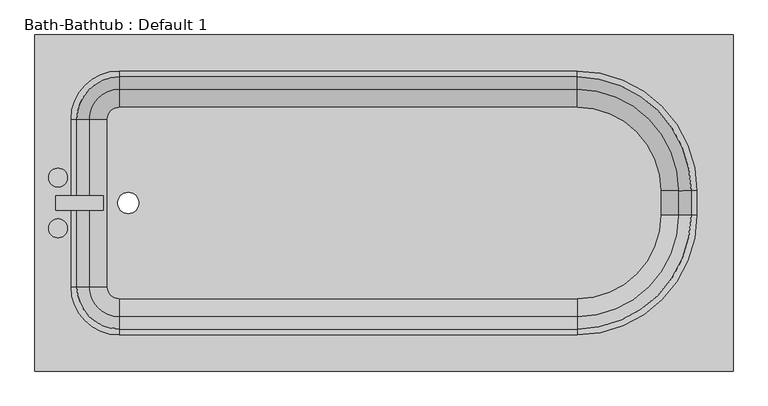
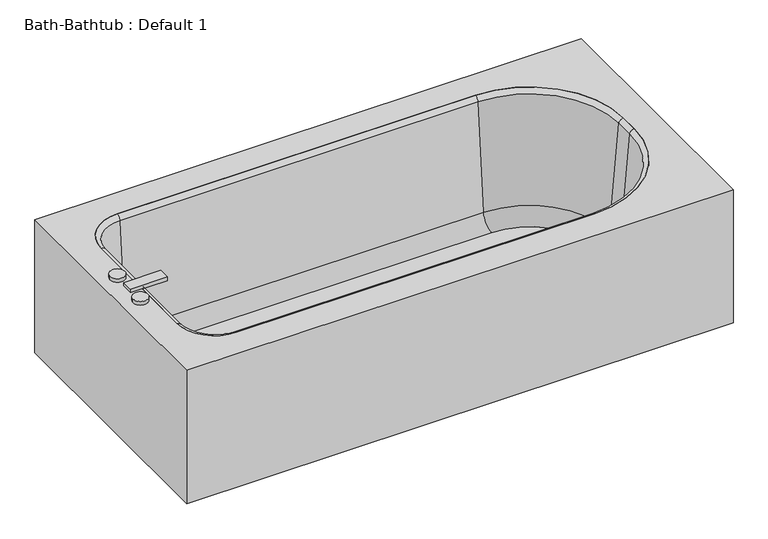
"""IFC4 building model written with IfcOpenShell, lengths in millimetres: flow terminal geometry, Bath-Bathtub : Default 1."""

from ifc_helpers import new_model, si_unit, point, frame, frame_2d, origin, place, context, project, spatial, polyline, circle_curve, ellipse_curve, trimmed, segment, composite_curve, outline, extrude, source, transform, mapped, element, save
from ifc_brep_helpers import plane_surface, cylinder_surface, revolved_surface, advanced_brep


def bath_bathtub_default_1_2fc18997(model_context):
    return source(origin(), model_context, "Body", "SolidModel", [
        advanced_brep(
        [(363.1306637, 785.7105634, 380.0), (-1110.6029687, 785.7105634, 380.0), (-1110.6029687, 76.2, 380.0), (363.1306637, 76.2, 380.0), (-932.8029687, 709.5105634, 380.0), (33.775382, 709.5105634, 380.0), (286.9306637, 456.3552817, 380.0), (286.9306637, 405.5552817, 380.0), (33.775382, 152.4, 380.0), (-932.8029687, 152.4, 380.0), (-1034.4029687, 254.0, 380.0), (-1034.4029687, 607.9105634, 380.0), (344.0806637, 766.6605634, 360.95), (344.0806637, 95.25, 360.95), (-1091.5529687, 95.25, 360.95), (-1091.5529687, 766.6605634, 360.95), (-932.8029687, 709.5105634, 360.95), (-1034.4029687, 607.9105634, 360.95), (-1034.4029687, 254.0, 360.95), (-932.8029687, 152.4, 360.95), (33.775382, 152.4, 360.95), (286.9306637, 405.5552817, 360.95), (286.9306637, 456.3552817, 360.95), (33.775382, 709.5105634, 360.95), (363.1306637, 785.7105634, 0.0), (-1110.6029687, 785.7105634, 0.0), (-1110.6029687, 76.2, 0.0), (363.1306637, 76.2, 0.0), (344.0806637, 766.6605634, 0.0), (-1091.5529687, 766.6605634, 0.0), (-1091.5529687, 95.25, 0.0), (344.0806637, 95.25, 0.0)],
        [
            (0, 1),
            (1, 2),
            (2, 3),
            (3, 0),
            (4, 5),
            (5, 6, circle_curve(frame((33.775382, 456.3552817, 380.0), z_axis=(0.0, 0.0, -1.0), x_axis=(0.0, 1.0, 0.0)), 253.1552817)),
            (6, 7),
            (7, 8, circle_curve(frame((33.775382, 405.5552817, 380.0), z_axis=(0.0, 0.0, -1.0), x_axis=(0.0, 1.0, 0.0)), 253.1552817)),
            (8, 9),
            (9, 10, circle_curve(frame((-932.8029687, 254.0, 380.0), z_axis=(0.0, 0.0, -1.0), x_axis=(0.0, 1.0, 0.0)), 101.6)),
            (10, 11),
            (11, 4, circle_curve(frame((-932.8029687, 607.9105634, 380.0), z_axis=(0.0, 0.0, -1.0), x_axis=(0.0, 1.0, 0.0)), 101.6)),
            (12, 13),
            (13, 14),
            (14, 15),
            (15, 12),
            (16, 17, circle_curve(frame((-932.8029687, 607.9105634, 360.95), z_axis=(0.0, 0.0, 1.0), x_axis=(0.0, 1.0, 0.0)), 101.6)),
            (17, 18),
            (18, 19, circle_curve(frame((-932.8029687, 254.0, 360.95), z_axis=(0.0, 0.0, 1.0), x_axis=(0.0, 1.0, 0.0)), 101.6)),
            (19, 20),
            (20, 21, circle_curve(frame((33.775382, 405.5552817, 360.95), z_axis=(0.0, 0.0, 1.0), x_axis=(0.0, 1.0, 0.0)), 253.1552817)),
            (21, 22),
            (22, 23, circle_curve(frame((33.775382, 456.3552817, 360.95), z_axis=(0.0, 0.0, 1.0), x_axis=(0.0, 1.0, 0.0)), 253.1552817)),
            (23, 16),
            (0, 24),
            (24, 25),
            (25, 1),
            (25, 26),
            (26, 2),
            (26, 27),
            (27, 3),
            (27, 24),
            (4, 16),
            (23, 5),
            (22, 6),
            (21, 7),
            (20, 8),
            (19, 9),
            (18, 10),
            (17, 11),
            (28, 29),
            (29, 30),
            (30, 31),
            (31, 28),
            (31, 13),
            (12, 28),
            (30, 14),
            (29, 15),
        ],
        [
            plane_surface(frame((-1110.6029687, 785.7105634, 380.0), z_axis=(0.0, 0.0, 1.0), x_axis=(-1.0, 0.0, 0.0))),
            plane_surface(frame((-1110.6029687, 785.7105634, 360.95), z_axis=(0.0, 0.0, -1.0), x_axis=(1.0, 0.0, 0.0))),
            plane_surface(frame((363.1306637, 785.7105634, 380.0), z_axis=(0.0, 1.0, 0.0), x_axis=(0.0, 0.0, -1.0))),
            plane_surface(frame((-1110.6029687, 785.7105634, 380.0), z_axis=(-1.0, 0.0, 0.0), x_axis=(0.0, 0.0, -1.0))),
            plane_surface(frame((-1110.6029687, 76.2, 380.0), z_axis=(0.0, -1.0, 0.0), x_axis=(0.0, 0.0, -1.0))),
            plane_surface(frame((363.1306637, 76.2, 380.0), z_axis=(1.0, 0.0, 0.0), x_axis=(0.0, 0.0, -1.0))),
            plane_surface(frame((-932.8029687, 709.5105634, 380.0), z_axis=(0.0, -1.0, 0.0), x_axis=(0.0, 0.0, -1.0))),
            revolved_surface(polyline([(33.775382, 709.5105633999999, 360.95), (33.775382, 709.5105633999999, 380.0)]), (33.775382, 456.3552817, 380.0), (0.0, 0.0, -1.0)),
            plane_surface(frame((286.9306637, 456.3552817, 380.0), z_axis=(-1.0, 0.0, 0.0), x_axis=(0.0, 0.0, -1.0))),
            revolved_surface(polyline([(33.775382, 658.7105634, 360.95), (33.775382, 658.7105634, 380.0)]), (33.775382, 405.5552817, 380.0), (0.0, 0.0, -1.0)),
            plane_surface(frame((33.775382, 152.4, 380.0), z_axis=(0.0, 1.0, 0.0), x_axis=(0.0, 0.0, -1.0))),
            revolved_surface(polyline([(-932.8029687, 355.6, 360.95), (-932.8029687, 355.6, 380.0)]), (-932.8029687, 254.0, 380.0), (0.0, 0.0, -1.0)),
            plane_surface(frame((-1034.4029687, 254.0, 380.0), z_axis=(1.0, 0.0, 0.0), x_axis=(0.0, 0.0, -1.0))),
            revolved_surface(polyline([(-932.8029687, 709.5105634, 360.95), (-932.8029687, 709.5105634, 380.0)]), (-932.8029687, 607.9105634, 380.0), (0.0, 0.0, -1.0)),
            plane_surface(frame((-1110.6029687, 785.7105634, 0.0), z_axis=(0.0, 0.0, -1.0), x_axis=(1.0, 0.0, 0.0))),
            plane_surface(frame((344.0806637, 766.6605634, 360.95), z_axis=(-1.0, 0.0, 0.0), x_axis=(0.0, 0.0, -1.0))),
            plane_surface(frame((344.0806637, 95.25, 360.95), z_axis=(0.0, 1.0, 0.0), x_axis=(0.0, 0.0, -1.0))),
            plane_surface(frame((-1091.5529687, 95.25, 360.95), z_axis=(1.0, 0.0, 0.0), x_axis=(0.0, 0.0, -1.0))),
            plane_surface(frame((-1091.5529687, 766.6605634, 360.95), z_axis=(0.0, -1.0, 0.0), x_axis=(0.0, 0.0, -1.0))),
        ],
        [
            (0, [[1, 2, 3, 4], [5, 6, 7, 8, 9, 10, 11, 12]]),
            (1, [[13, 14, 15, 16], [17, 18, 19, 20, 21, 22, 23, 24]]),
            (2, [[-1, 25, 26, 27]]),
            (3, [[-2, -27, 28, 29]]),
            (4, [[-3, -29, 30, 31]]),
            (5, [[-25, -4, -31, 32]]),
            (6, [[-5, 33, -24, 34]]),
            (7, [[-6, -34, -23, 35]]),
            (8, [[-7, -35, -22, 36]]),
            (9, [[-8, -36, -21, 37]]),
            (10, [[-9, -37, -20, 38]]),
            (11, [[-10, -38, -19, 39]]),
            (12, [[-11, -39, -18, 40]]),
            (13, [[-12, -40, -17, -33]]),
            (14, [[-32, -30, -28, -26], [41, 42, 43, 44]]),
            (15, [[-44, 45, -13, 46]]),
            (16, [[-43, 47, -14, -45]]),
            (17, [[-42, 48, -15, -47]]),
            (18, [[-41, -46, -16, -48]]),
        ],
    ),
        extrude(outline(composite_curve([segment(trimmed(circle_curve(frame_2d((33.775382, 456.3552817)), 176.5517558), [point((33.775382, 632.9070376))], [point((210.3271379, 456.3552817))], False, "CARTESIAN"), True, "CONTINUOUS"), segment(polyline([(210.3271379, 456.3552817), (210.3271379, 405.5552817)]), True, "CONTINUOUS"), segment(trimmed(circle_curve(frame_2d((33.775382, 405.5552817)), 176.5517558), [point((210.3271379, 405.5552817))], [point((33.775382, 229.0035259))], False, "CARTESIAN"), True, "CONTINUOUS"), segment(polyline([(33.775382, 229.0035259), (-932.8029687, 229.0035259)]), True, "CONTINUOUS"), segment(trimmed(circle_curve(frame_2d((-932.8029687, 254.0)), 24.9964741), [point((-932.8029687, 229.0035259))], [point((-957.7994428, 254.0))], False, "CARTESIAN"), True, "CONTINUOUS"), segment(polyline([(-957.7994428, 254.0), (-957.7994428, 607.9105634)]), True, "CONTINUOUS"), segment(trimmed(circle_curve(frame_2d((-932.8029687, 607.9105634)), 24.9964741), [point((-957.7994428, 607.9105634))], [point((-932.8029687, 632.9070376))], False, "CARTESIAN"), True, "CONTINUOUS"), segment(polyline([(-932.8029687, 632.9070376), (33.775382, 632.9070376)]), True, "CONTINUOUS")], self_intersect=False), holes=[composite_curve([segment(trimmed(circle_curve(frame_2d((-913.5971625, 430.9552817)), 22.225), [point((-913.5971625, 453.1802817))], [point((-913.5971625, 408.7302817))], True, "CARTESIAN"), True, "CONTINUOUS"), segment(trimmed(circle_curve(frame_2d((-913.5971625, 430.9552817)), 22.225), [point((-913.5971625, 408.7302817))], [point((-913.5971625, 453.1802817))], True, "CARTESIAN"), True, "CONTINUOUS")], self_intersect=False)]), frame((0.0, 0.0, 15.863573), z_axis=(0.0, 0.0, 1.0), x_axis=(1.0, 0.0, 0.0)), (0.0, 0.0, 1.0), 19.05),
        advanced_brep(
        [(-995.7544608, 607.9105634, 69.6929392), (-932.8029687, 670.8620555, 69.6929392), (-932.8029687, 697.032567, 368.8232535), (-1021.9249722, 607.9105634, 368.8232535), (-957.7994428, 607.9105634, 34.913573), (-932.8029687, 632.9070376, 34.913573), (-957.7994428, 607.9105634, 15.863573), (-932.8029687, 632.9070376, 15.863573), (-1034.4029687, 607.9105634, 15.863573), (-932.8029687, 709.5105634, 15.863573), (-1034.4029687, 607.9105634, 380.0), (-932.8029687, 709.5105634, 380.0), (-1021.9249722, 254.0, 368.8232535), (-995.7544608, 254.0, 69.6929392), (-957.7994428, 254.0, 34.913573), (-957.7994428, 254.0, 15.863573), (-1034.4029687, 254.0, 15.863573), (-1034.4029687, 254.0, 380.0), (-932.8029687, 191.0485079, 69.6929392), (-932.8029687, 164.8779965, 368.8232535), (-932.8029687, 229.0035259, 34.913573), (-932.8029687, 229.0035259, 15.863573), (-932.8029687, 152.4, 15.863573), (-932.8029687, 152.4, 380.0), (33.775382, 164.8779965, 368.8232535), (33.775382, 191.0485079, 69.6929392), (33.775382, 229.0035259, 34.913573), (33.775382, 229.0035259, 15.863573), (33.775382, 152.4, 15.863573), (33.775382, 152.4, 380.0), (248.2821559, 405.5552817, 69.6929392), (274.4526673, 405.5552817, 368.8232535), (210.3271379, 405.5552817, 34.913573), (210.3271379, 405.5552817, 15.863573), (286.9306637, 405.5552817, 15.863573), (286.9306637, 405.5552817, 380.0), (274.4526673, 456.3552817, 368.8232535), (248.2821559, 456.3552817, 69.6929392), (210.3271379, 456.3552817, 34.913573), (210.3271379, 456.3552817, 15.863573), (286.9306637, 456.3552817, 15.863573), (286.9306637, 456.3552817, 380.0), (33.775382, 670.8620555, 69.6929392), (33.775382, 697.032567, 368.8232535), (33.775382, 632.9070376, 34.913573), (33.775382, 632.9070376, 15.863573), (33.775382, 709.5105634, 15.863573), (33.775382, 709.5105634, 380.0)],
        [
            (0, 1, circle_curve(frame((-932.8029687, 607.9105634, 69.6929392), z_axis=(0.0, 0.0, -1.0), x_axis=(0.0, 1.0, 0.0)), 62.9514921)),
            (1, 2),
            (2, 3, circle_curve(frame((-932.8029687, 607.9105634, 368.8232535), z_axis=(0.0, 0.0, 1.0), x_axis=(0.0, 1.0, 0.0)), 89.1220035)),
            (3, 0),
            (4, 5, circle_curve(frame((-932.8029687, 607.9105634, 34.913573), z_axis=(0.0, 0.0, -1.0), x_axis=(0.0, 1.0, 0.0)), 24.9964741)),
            (5, 1, circle_curve(frame((-932.8029687, 632.9070376, 73.013573), z_axis=(1.0, 0.0, 0.0), x_axis=(0.0, -1.0, 0.0)), 38.1)),
            (0, 4, circle_curve(frame((-957.7994428, 607.9105634, 73.013573), z_axis=(0.0, -1.0, 0.0), x_axis=(1.0, 0.0, 0.0)), 38.1)),
            (6, 7, circle_curve(frame((-932.8029687, 607.9105634, 15.863573), z_axis=(0.0, 0.0, -1.0), x_axis=(0.0, 1.0, 0.0)), 24.9964741)),
            (7, 5),
            (4, 6),
            (8, 9, circle_curve(frame((-932.8029687, 607.9105634, 15.863573), z_axis=(0.0, 0.0, -1.0), x_axis=(0.0, 1.0, 0.0)), 101.6)),
            (9, 7),
            (6, 8),
            (10, 11, circle_curve(frame((-932.8029687, 607.9105634, 380.0), z_axis=(0.0, 0.0, -1.0), x_axis=(0.0, 1.0, 0.0)), 101.6)),
            (11, 9),
            (8, 10),
            (2, 11, circle_curve(frame((-932.8029687, 709.5105634, 367.4462547), z_axis=(-1.0, 0.0, 0.0), x_axis=(0.0, -1.0, 0.0)), 12.5537453)),
            (10, 3, circle_curve(frame((-1034.4029687, 607.9105634, 367.4462547), z_axis=(0.0, 1.0, 0.0), x_axis=(1.0, 0.0, 0.0)), 12.5537453)),
            (3, 12),
            (12, 13),
            (13, 0),
            (13, 14, circle_curve(frame((-957.7994428, 254.0, 73.013573), z_axis=(0.0, -1.0, 0.0), x_axis=(1.0, 0.0, 0.0)), 38.1)),
            (14, 4),
            (14, 15),
            (15, 6),
            (15, 16),
            (16, 8),
            (16, 17),
            (17, 10),
            (17, 12, circle_curve(frame((-1034.4029687, 254.0, 367.4462547), z_axis=(0.0, 1.0, 0.0), x_axis=(1.0, 0.0, 0.0)), 12.5537453)),
            (18, 13, circle_curve(frame((-932.8029687, 254.0, 69.6929392), z_axis=(0.0, 0.0, -1.0), x_axis=(-1.0, 0.0, 0.0)), 62.9514921)),
            (12, 19, circle_curve(frame((-932.8029687, 254.0, 368.8232535), z_axis=(0.0, 0.0, 1.0), x_axis=(-1.0, 0.0, 0.0)), 89.1220035)),
            (19, 18),
            (20, 14, circle_curve(frame((-932.8029687, 254.0, 34.913573), z_axis=(0.0, 0.0, -1.0), x_axis=(-1.0, 0.0, 0.0)), 24.9964741)),
            (18, 20, circle_curve(frame((-932.8029687, 229.0035259, 73.013573), z_axis=(1.0, 0.0, 0.0), x_axis=(0.0, 1.0, 0.0)), 38.1)),
            (21, 15, circle_curve(frame((-932.8029687, 254.0, 15.863573), z_axis=(0.0, 0.0, -1.0), x_axis=(-1.0, 0.0, 0.0)), 24.9964741)),
            (20, 21),
            (22, 16, circle_curve(frame((-932.8029687, 254.0, 15.863573), z_axis=(0.0, 0.0, -1.0), x_axis=(-1.0, 0.0, 0.0)), 101.6)),
            (21, 22),
            (23, 17, circle_curve(frame((-932.8029687, 254.0, 380.0), z_axis=(0.0, 0.0, -1.0), x_axis=(-1.0, 0.0, 0.0)), 101.6)),
            (22, 23),
            (23, 19, circle_curve(frame((-932.8029687, 152.4, 367.4462547), z_axis=(-1.0, 0.0, 0.0), x_axis=(0.0, 1.0, 0.0)), 12.5537453)),
            (19, 24),
            (24, 25),
            (25, 18),
            (25, 26, circle_curve(frame((33.775382, 229.0035259, 73.013573), z_axis=(1.0, 0.0, 0.0), x_axis=(0.0, 1.0, 0.0)), 38.1)),
            (26, 20),
            (26, 27),
            (27, 21),
            (27, 28),
            (28, 22),
            (28, 29),
            (29, 23),
            (29, 24, circle_curve(frame((33.775382, 152.4, 367.4462547), z_axis=(-1.0, 0.0, 0.0), x_axis=(0.0, 1.0, 0.0)), 12.5537453)),
            (30, 25, circle_curve(frame((33.775382, 405.5552817, 69.6929392), z_axis=(0.0, 0.0, -1.0), x_axis=(0.0, -1.0, 0.0)), 214.5067738)),
            (24, 31, circle_curve(frame((33.775382, 405.5552817, 368.8232535), z_axis=(0.0, 0.0, 1.0), x_axis=(0.0, -1.0, 0.0)), 240.6772852)),
            (31, 30),
            (32, 26, circle_curve(frame((33.775382, 405.5552817, 34.913573), z_axis=(0.0, 0.0, -1.0), x_axis=(0.0, -1.0, 0.0)), 176.5517558)),
            (30, 32, circle_curve(frame((210.3271379, 405.5552817, 73.013573), z_axis=(0.0, 1.0, 0.0), x_axis=(-1.0, 0.0, 0.0)), 38.1)),
            (33, 27, circle_curve(frame((33.775382, 405.5552817, 15.863573), z_axis=(0.0, 0.0, -1.0), x_axis=(0.0, -1.0, 0.0)), 176.5517558)),
            (32, 33),
            (34, 28, circle_curve(frame((33.775382, 405.5552817, 15.863573), z_axis=(0.0, 0.0, -1.0), x_axis=(0.0, -1.0, 0.0)), 253.1552817)),
            (33, 34),
            (35, 29, circle_curve(frame((33.775382, 405.5552817, 380.0), z_axis=(0.0, 0.0, -1.0), x_axis=(0.0, -1.0, 0.0)), 253.1552817)),
            (34, 35),
            (35, 31, circle_curve(frame((286.9306637, 405.5552817, 367.4462547), z_axis=(0.0, -1.0, 0.0), x_axis=(-1.0, 0.0, 0.0)), 12.5537453)),
            (31, 36),
            (36, 37),
            (37, 30),
            (37, 38, circle_curve(frame((210.3271379, 456.3552817, 73.013573), z_axis=(0.0, 1.0, 0.0), x_axis=(-1.0, 0.0, 0.0)), 38.1)),
            (38, 32),
            (38, 39),
            (39, 33),
            (39, 40),
            (40, 34),
            (40, 41),
            (41, 35),
            (41, 36, circle_curve(frame((286.9306637, 456.3552817, 367.4462547), z_axis=(0.0, -1.0, 0.0), x_axis=(-1.0, 0.0, 0.0)), 12.5537453)),
            (42, 37, circle_curve(frame((33.775382, 456.3552817, 69.6929392), z_axis=(0.0, 0.0, -1.0), x_axis=(1.0, 0.0, 0.0)), 214.5067738)),
            (36, 43, circle_curve(frame((33.775382, 456.3552817, 368.8232535), z_axis=(0.0, 0.0, 1.0), x_axis=(1.0, 0.0, 0.0)), 240.6772852)),
            (43, 42),
            (44, 38, circle_curve(frame((33.775382, 456.3552817, 34.913573), z_axis=(0.0, 0.0, -1.0), x_axis=(1.0, 0.0, 0.0)), 176.5517558)),
            (42, 44, circle_curve(frame((33.775382, 632.9070376, 73.013573), z_axis=(-1.0, 0.0, 0.0), x_axis=(0.0, -1.0, 0.0)), 38.1)),
            (45, 39, circle_curve(frame((33.775382, 456.3552817, 15.863573), z_axis=(0.0, 0.0, -1.0), x_axis=(1.0, 0.0, 0.0)), 176.5517558)),
            (44, 45),
            (46, 40, circle_curve(frame((33.775382, 456.3552817, 15.863573), z_axis=(0.0, 0.0, -1.0), x_axis=(1.0, 0.0, 0.0)), 253.1552817)),
            (45, 46),
            (47, 41, circle_curve(frame((33.775382, 456.3552817, 380.0), z_axis=(0.0, 0.0, -1.0), x_axis=(1.0, 0.0, 0.0)), 253.1552817)),
            (46, 47),
            (47, 43, circle_curve(frame((33.775382, 709.5105634, 367.4462547), z_axis=(1.0, 0.0, 0.0), x_axis=(0.0, -1.0, 0.0)), 12.5537453)),
            (43, 2),
            (1, 42),
            (5, 44),
            (7, 45),
            (9, 46),
            (11, 47),
        ],
        [
            revolved_surface(polyline([(-932.8029687, 697.032567, 368.8232535), (-932.8029687, 670.8620555, 69.6929392)]), (-932.8029687, 607.9105634, 380.0), (0.0, 0.0, 1.0)),
            revolved_surface(trimmed(ellipse_curve(frame((-932.8029687, 632.9070376, 73.013573), z_axis=(-1.0, 0.0, 0.0), x_axis=(0.0, -1.0, 0.0)), 38.1, 38.1), [point((-932.8029687, 670.8620555, 69.6929392))], [point((-932.8029687, 632.9070376, 34.913573))], True, "CARTESIAN"), (-932.8029687, 607.9105634, 380.0), (0.0, 0.0, 1.0)),
            revolved_surface(polyline([(-932.8029687, 632.9070375, 34.913572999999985), (-932.8029687, 632.9070375, 15.863572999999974)]), (-932.8029687, 607.9105634, 380.0), (0.0, 0.0, 1.0)),
            plane_surface(frame((-932.8029687, 607.9105634, 15.863573), z_axis=(0.0, 0.0, -1.0), x_axis=(0.0, 1.0, 0.0))),
            cylinder_surface(frame((-932.8029687, 607.9105634, 380.0), z_axis=(0.0, 0.0, 1.0), x_axis=(0.0, 1.0, 0.0)), 101.6),
            revolved_surface(trimmed(ellipse_curve(frame((-932.8029687, 709.5105634, 367.4462547), z_axis=(1.0, 0.0, 0.0), x_axis=(0.0, -1.0, 0.0)), 12.5537453, 12.5537453), [point((-932.8029687, 709.5105634, 380.0))], [point((-932.8029687, 697.032567, 368.8232535))], True, "CARTESIAN"), (-932.8029687, 607.9105634, 380.0), (0.0, 0.0, 1.0)),
            plane_surface(frame((-1021.9249722, 607.9105634, 368.8232535), z_axis=(0.9961946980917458, 0.0, 0.08715574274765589), x_axis=(0.0, -1.0, 0.0))),
            revolved_surface(polyline([(-919.6994427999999, 254.0, 73.013573), (-919.6994427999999, 607.9105634, 73.013573)]), (-957.7994428, 607.9105634, 73.013573), (0.0, -1.0, 0.0)),
            plane_surface(frame((-957.7994428, 607.9105634, 34.913573), z_axis=(1.0, 0.0, 0.0), x_axis=(0.0, -1.0, 0.0))),
            plane_surface(frame((-957.7994428, 607.9105634, 15.863573), z_axis=(0.0, 0.0, -1.0), x_axis=(0.0, -1.0, 0.0))),
            plane_surface(frame((-1034.4029687, 607.9105634, 15.863573), z_axis=(-1.0, 0.0, 0.0), x_axis=(0.0, -1.0, 0.0))),
            cylinder_surface(frame((-1034.4029687, 607.9105634, 367.4462547), z_axis=(0.0, 1.0, 0.0), x_axis=(1.0, 0.0, 0.0)), 12.5537453),
            revolved_surface(polyline([(-1021.9249722, 254.0, 368.8232535), (-995.7544608, 254.0, 69.6929392)]), (-932.8029687, 254.0, 380.0), (0.0, 0.0, 1.0)),
            revolved_surface(trimmed(ellipse_curve(frame((-957.7994428, 254.0, 73.013573), z_axis=(0.0, -1.0, 0.0), x_axis=(1.0, 0.0, 0.0)), 38.1, 38.1), [point((-995.7544608, 254.0, 69.6929392))], [point((-957.7994428, 254.0, 34.913573))], True, "CARTESIAN"), (-932.8029687, 254.0, 380.0), (0.0, 0.0, 1.0)),
            revolved_surface(polyline([(-957.7994428, 254.0, 34.913572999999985), (-957.7994428, 254.0, 15.863572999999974)]), (-932.8029687, 254.0, 380.0), (0.0, 0.0, 1.0)),
            plane_surface(frame((-932.8029687, 254.0, 15.863573), z_axis=(0.0, 0.0, -1.0), x_axis=(-1.0, 0.0, 0.0))),
            cylinder_surface(frame((-932.8029687, 254.0, 380.0), z_axis=(0.0, 0.0, 1.0), x_axis=(-1.0, 0.0, 0.0)), 101.6),
            revolved_surface(trimmed(ellipse_curve(frame((-1034.4029687, 254.0, 367.4462547), z_axis=(0.0, 1.0, 0.0), x_axis=(1.0, 0.0, 0.0)), 12.5537453, 12.5537453), [point((-1034.4029687, 254.0, 380.0))], [point((-1021.9249722, 254.0, 368.8232535))], True, "CARTESIAN"), (-932.8029687, 254.0, 380.0), (0.0, 0.0, 1.0)),
            plane_surface(frame((-932.8029687, 164.8779965, 368.8232535), z_axis=(0.0, 0.9961946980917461, 0.08715574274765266), x_axis=(1.0, 0.0, 0.0))),
            revolved_surface(polyline([(33.775382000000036, 267.1035259, 73.013573), (-932.8029687, 267.1035259, 73.013573)]), (-932.8029687, 229.0035259, 73.013573), (1.0, 0.0, 0.0)),
            plane_surface(frame((-932.8029687, 229.0035259, 34.913573), z_axis=(0.0, 1.0, 0.0), x_axis=(1.0, 0.0, 0.0))),
            plane_surface(frame((-932.8029687, 229.0035259, 15.863573), z_axis=(0.0, 0.0, -1.0), x_axis=(1.0, 0.0, 0.0))),
            plane_surface(frame((-932.8029687, 152.4, 15.863573), z_axis=(0.0, -1.0, 0.0), x_axis=(1.0, 0.0, 0.0))),
            cylinder_surface(frame((-932.8029687, 152.4, 367.4462547), z_axis=(-1.0, 0.0, 0.0), x_axis=(0.0, 1.0, 0.0)), 12.5537453),
            revolved_surface(polyline([(33.775382, 164.8779965, 368.8232535), (33.775382, 191.0485079, 69.6929392)]), (33.775382, 405.5552817, 380.0), (0.0, 0.0, 1.0)),
            revolved_surface(trimmed(ellipse_curve(frame((33.775382, 229.0035259, 73.013573), z_axis=(1.0, 0.0, 0.0), x_axis=(0.0, 1.0, 0.0)), 38.1, 38.1), [point((33.775382, 191.0485079, 69.6929392))], [point((33.775382, 229.0035259, 34.913573))], True, "CARTESIAN"), (33.775382, 405.5552817, 380.0), (0.0, 0.0, 1.0)),
            revolved_surface(polyline([(33.775382, 229.00352590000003, 34.913572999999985), (33.775382, 229.00352590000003, 15.863572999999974)]), (33.775382, 405.5552817, 380.0), (0.0, 0.0, 1.0)),
            plane_surface(frame((33.775382, 405.5552817, 15.863573), z_axis=(0.0, 0.0, -1.0), x_axis=(0.0, -1.0, 0.0))),
            cylinder_surface(frame((33.775382, 405.5552817, 380.0), z_axis=(0.0, 0.0, 1.0), x_axis=(0.0, -1.0, 0.0)), 253.1552817),
            revolved_surface(trimmed(ellipse_curve(frame((33.775382, 152.4, 367.4462547), z_axis=(-1.0, 0.0, 0.0), x_axis=(0.0, 1.0, 0.0)), 12.5537453, 12.5537453), [point((33.775382, 152.4, 380.0))], [point((33.775382, 164.8779965, 368.8232535))], True, "CARTESIAN"), (33.775382, 405.5552817, 380.0), (0.0, 0.0, 1.0)),
            plane_surface(frame((274.4526673, 405.5552817, 368.8232535), z_axis=(-0.9961946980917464, 0.0, 0.08715574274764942), x_axis=(0.0, 1.0, 0.0))),
            revolved_surface(polyline([(172.2271379, 456.3552817, 73.013573), (172.2271379, 405.5552817, 73.013573)]), (210.3271379, 405.5552817, 73.013573), (0.0, 1.0, 0.0)),
            plane_surface(frame((210.3271379, 405.5552817, 34.913573), z_axis=(-1.0, 0.0, 0.0), x_axis=(0.0, 1.0, 0.0))),
            plane_surface(frame((210.3271379, 405.5552817, 15.863573), z_axis=(0.0, 0.0, -1.0), x_axis=(0.0, 1.0, 0.0))),
            plane_surface(frame((286.9306637, 405.5552817, 15.863573), z_axis=(1.0, 0.0, 0.0), x_axis=(0.0, 1.0, 0.0))),
            cylinder_surface(frame((286.9306637, 405.5552817, 367.4462547), z_axis=(0.0, -1.0, 0.0), x_axis=(-1.0, 0.0, 0.0)), 12.5537453),
            revolved_surface(polyline([(274.4526673, 456.3552817, 368.8232535), (248.2821559, 456.3552817, 69.6929392)]), (33.775382, 456.3552817, 380.0), (0.0, 0.0, 1.0)),
            revolved_surface(trimmed(ellipse_curve(frame((210.3271379, 456.3552817, 73.013573), z_axis=(0.0, 1.0, 0.0), x_axis=(-1.0, 0.0, 0.0)), 38.1, 38.1), [point((248.2821559, 456.3552817, 69.6929392))], [point((210.3271379, 456.3552817, 34.913573))], True, "CARTESIAN"), (33.775382, 456.3552817, 380.0), (0.0, 0.0, 1.0)),
            revolved_surface(polyline([(210.3271378, 456.3552817, 34.913572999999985), (210.3271378, 456.3552817, 15.863572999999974)]), (33.775382, 456.3552817, 380.0), (0.0, 0.0, 1.0)),
            plane_surface(frame((33.775382, 456.3552817, 15.863573), z_axis=(0.0, 0.0, -1.0), x_axis=(1.0, 0.0, 0.0))),
            cylinder_surface(frame((33.775382, 456.3552817, 380.0), z_axis=(0.0, 0.0, 1.0), x_axis=(1.0, 0.0, 0.0)), 253.1552817),
            revolved_surface(trimmed(ellipse_curve(frame((286.9306637, 456.3552817, 367.4462547), z_axis=(0.0, -1.0, 0.0), x_axis=(-1.0, 0.0, 0.0)), 12.5537453, 12.5537453), [point((286.9306637, 456.3552817, 380.0))], [point((274.4526673, 456.3552817, 368.8232535))], True, "CARTESIAN"), (33.775382, 456.3552817, 380.0), (0.0, 0.0, 1.0)),
            plane_surface(frame((33.775382, 697.032567, 368.8232535), z_axis=(0.0, -0.9961946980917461, 0.08715574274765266), x_axis=(-1.0, 0.0, 0.0))),
            revolved_surface(polyline([(-932.8029687, 594.8070376, 73.013573), (33.775382, 594.8070376, 73.013573)]), (33.775382, 632.9070376, 73.013573), (-1.0, 0.0, 0.0)),
            plane_surface(frame((33.775382, 632.9070376, 34.913573), z_axis=(0.0, -1.0, 0.0), x_axis=(-1.0, 0.0, 0.0))),
            plane_surface(frame((33.775382, 632.9070376, 15.863573), z_axis=(0.0, 0.0, -1.0), x_axis=(-1.0, 0.0, 0.0))),
            plane_surface(frame((33.775382, 709.5105634, 15.863573), z_axis=(0.0, 1.0, 0.0), x_axis=(-1.0, 0.0, 0.0))),
            cylinder_surface(frame((33.775382, 709.5105634, 367.4462547), z_axis=(1.0, 0.0, 0.0), x_axis=(0.0, -1.0, 0.0)), 12.5537453),
        ],
        [
            (0, [[1, 2, 3, 4]]),
            (1, [[5, 6, -1, 7]]),
            (2, [[8, 9, -5, 10]]),
            (3, [[11, 12, -8, 13]]),
            (4, [[14, 15, -11, 16]]),
            (5, [[-3, 17, -14, 18]]),
            (6, [[-4, 19, 20, 21]]),
            (7, [[-7, -21, 22, 23]]),
            (8, [[-10, -23, 24, 25]]),
            (9, [[-13, -25, 26, 27]]),
            (10, [[-16, -27, 28, 29]]),
            (11, [[-18, -29, 30, -19]]),
            (12, [[31, -20, 32, 33]]),
            (13, [[34, -22, -31, 35]]),
            (14, [[36, -24, -34, 37]]),
            (15, [[38, -26, -36, 39]]),
            (16, [[40, -28, -38, 41]]),
            (17, [[-32, -30, -40, 42]]),
            (18, [[-33, 43, 44, 45]]),
            (19, [[-35, -45, 46, 47]]),
            (20, [[-37, -47, 48, 49]]),
            (21, [[-39, -49, 50, 51]]),
            (22, [[-41, -51, 52, 53]]),
            (23, [[-42, -53, 54, -43]]),
            (24, [[55, -44, 56, 57]]),
            (25, [[58, -46, -55, 59]]),
            (26, [[60, -48, -58, 61]]),
            (27, [[62, -50, -60, 63]]),
            (28, [[64, -52, -62, 65]]),
            (29, [[-56, -54, -64, 66]]),
            (30, [[-57, 67, 68, 69]]),
            (31, [[-59, -69, 70, 71]]),
            (32, [[-61, -71, 72, 73]]),
            (33, [[-63, -73, 74, 75]]),
            (34, [[-65, -75, 76, 77]]),
            (35, [[-66, -77, 78, -67]]),
            (36, [[79, -68, 80, 81]]),
            (37, [[82, -70, -79, 83]]),
            (38, [[84, -72, -82, 85]]),
            (39, [[86, -74, -84, 87]]),
            (40, [[88, -76, -86, 89]]),
            (41, [[-80, -78, -88, 90]]),
            (42, [[-81, 91, -2, 92]]),
            (43, [[-83, -92, -6, 93]]),
            (44, [[-85, -93, -9, 94]]),
            (45, [[-87, -94, -12, 95]]),
            (46, [[-89, -95, -15, 96]]),
            (47, [[-90, -96, -17, -91]]),
        ],
    ),
        extrude(outline(polyline([(-1066.8328759, 445.9552817), (-966.8328759, 445.9552817), (-966.8328759, 415.9552817), (-1066.8328759, 415.9552817), (-1066.8328759, 445.9552817)])), frame((0.0, 0.0, 380.0), z_axis=(0.0, 0.0, 1.0), x_axis=(1.0, 0.0, 0.0)), (0.0, 0.0, 1.0), 10.6738596),
        extrude(outline(composite_curve([segment(trimmed(circle_curve(frame_2d((-1061.8660369, 484.6500193)), 20.0), [point((-1041.8660369, 484.6500193))], [point((-1081.8660369, 484.6500193))], False, "CARTESIAN"), True, "CONTINUOUS"), segment(trimmed(circle_curve(frame_2d((-1061.8660369, 484.6500193)), 20.0), [point((-1081.8660369, 484.6500193))], [point((-1041.8660369, 484.6500193))], False, "CARTESIAN"), True, "CONTINUOUS")], self_intersect=False)), frame((0.0, 0.0, 380.0), z_axis=(0.0, 0.0, 1.0), x_axis=(1.0, 0.0, 0.0)), (0.0, 0.0, 1.0), 10.6738596),
        extrude(outline(composite_curve([segment(trimmed(circle_curve(frame_2d((-1061.8660369, 377.2605441)), 20.0), [point((-1041.8660369, 377.2605441))], [point((-1081.8660369, 377.2605441))], False, "CARTESIAN"), True, "CONTINUOUS"), segment(trimmed(circle_curve(frame_2d((-1061.8660369, 377.2605441)), 20.0), [point((-1081.8660369, 377.2605441))], [point((-1041.8660369, 377.2605441))], False, "CARTESIAN"), True, "CONTINUOUS")], self_intersect=False)), frame((0.0, 0.0, 380.0), z_axis=(0.0, 0.0, 1.0), x_axis=(1.0, 0.0, 0.0)), (0.0, 0.0, 1.0), 10.6738596),
    ])


if __name__ == "__main__":
    model = new_model("IFC4")
    model_context = context("Model", 3, world=origin())
    ifc_project = project(units=[si_unit("LENGTHUNIT", "METRE", prefix="MILLI")], contexts=[model_context])
    site = spatial("IfcSite", under=ifc_project)
    building = spatial("IfcBuilding", under=site)
    placement = place(None, origin())
    bath_bathtub_default_1_shape = bath_bathtub_default_1_2fc18997(model_context)
    element("IfcFlowTerminal", 1, ObjectType="Bath-Bathtub : Default 1", at=placement, inside=building, context=model_context, shape_type="MappedRepresentation", body=[
        mapped(bath_bathtub_default_1_shape, transform((0.0, 0.0, 0.0), x_axis=(1.0, 0.0, 0.0), y_axis=(0.0, 1.0, 0.0), z_axis=(0.0, 0.0, 1.0))),
    ])
    save(model, "model.ifc")
